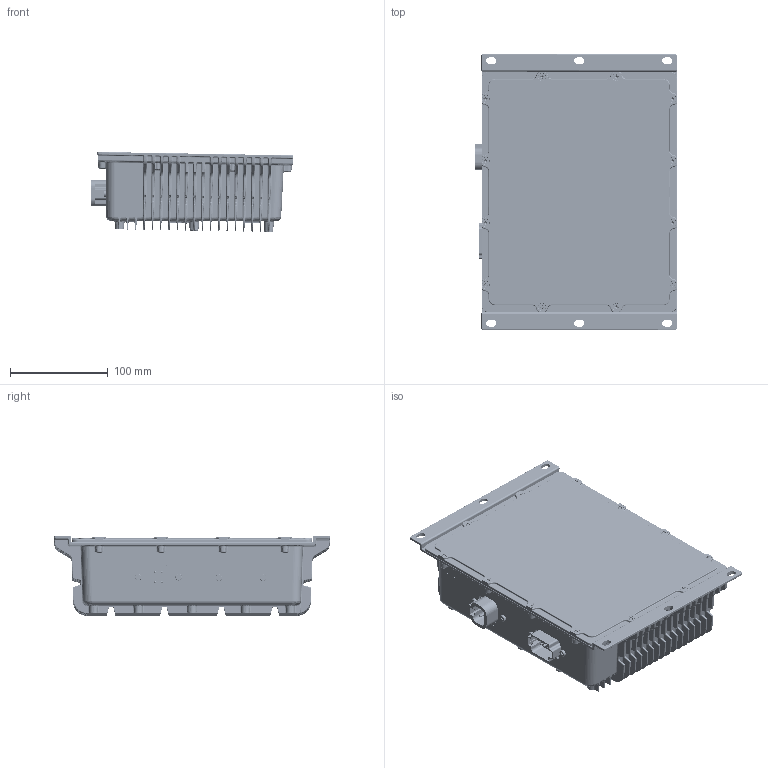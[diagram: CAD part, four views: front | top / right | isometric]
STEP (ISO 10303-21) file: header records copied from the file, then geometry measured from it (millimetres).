
FILE_DESCRIPTION(/* description */ (''),/* implementation_level */ '2;1');
FILE_NAME(/* name */ 'C:\Users\azhao\Documents\23028\Mechanical\Rev1\FG-AX081220_Shrinkwrap_1.stp',/* time_stamp */ '2024-01-11T09:54:23-05:00',/* author */ ('azhao'),/* organization */ (''),/* preprocessor_version */ 'ST-DEVELOPER v18.1',/* originating_system */ 'Autodesk Inventor 2021',/* authorisation */ '');
FILE_SCHEMA (('AUTOMOTIVE_DESIGN { 1 0 10303 214 3 1 1 }','PROCESS_PLANNING_SCHEMA'));
Products named in the file (1): FG-AX081220_Shrinkwrap_1
Bounding box: 206.85 x 282.36 x 82.07 mm (x, y, z)
Surface area: 461611.5 mm2
Topology: 18 solids, 40 shells, 9463 faces, 22268 edges, 12930 vertices
Faces by surface type: cylinder 3382, bspline 2258, plane 2108, sphere 724, torus 539, cone 452
Full cylindrical faces by diameter (mm): 1.575 x36, 2.388 x12, 2.794 x2, 3.099 x2, 3.242 x8, 3.251 x60, 3.302 x5, 3.962 x4, 4 x48, 4.496 x12, 6.502 x6, 6.528 x3, 6.858 x4, 8.077 x2, 8.306 x2
Entity records: 386940 total; most frequent: CARTESIAN_POINT 168396, ORIENTED_EDGE 44208, DIRECTION 43318, EDGE_CURVE 22104, AXIS2_PLACEMENT_3D 17009, VERTEX_POINT 12926, EDGE_LOOP 9722, FACE_OUTER_BOUND 9463
